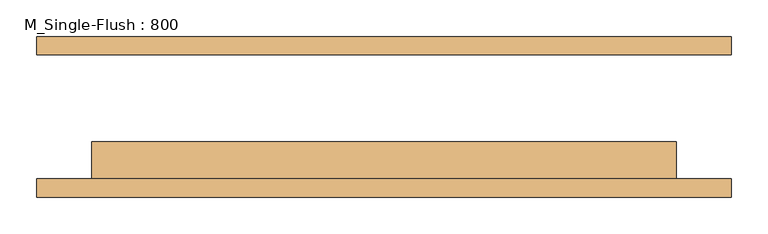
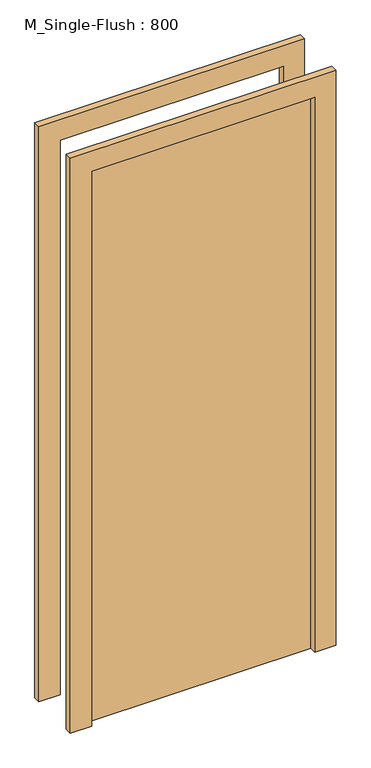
"""IFC4 building model written with IfcOpenShell, lengths in millimetres: door geometry, M_Single-Flush : 800."""

from ifc_helpers import new_model, si_unit, frame, origin, origin_with_axes, place, context, project, spatial, polyline, outline, extrude, source, transform, mapped, element, save


def m_single_flush_800_b7240e34(model_context):
    return source(origin(), model_context, "Body", "SweptSolid", [
        extrude(outline(polyline([(2176.0, -476.0), (0.0, -476.0), (0.0, -400.0), (2100.0, -400.0), (2100.0, 400.0), (0.0, 400.0), (0.0, 476.0), (2176.0, 476.0), (2176.0, -476.0)])), frame((0.0, -110.0, 0.0), z_axis=(0.0, 1.0, 0.0), x_axis=(0.0, 0.0, 1.0)), (0.0, 0.0, 1.0), 25.0),
        extrude(outline(polyline([(2176.0, 476.0), (2176.0, -476.0), (0.0, -476.0), (0.0, -400.0), (2100.0, -400.0), (2100.0, 400.0), (0.0, 400.0), (0.0, 476.0), (2176.0, 476.0)])), frame((0.0, 85.0, 0.0), z_axis=(0.0, 1.0, 0.0), x_axis=(0.0, 0.0, 1.0)), (0.0, 0.0, 1.0), 25.0),
        extrude(outline(polyline([(400.0, -34.0), (400.0, -85.0), (-400.0, -85.0), (-400.0, -34.0), (400.0, -34.0)])), origin_with_axes(), (0.0, 0.0, 1.0), 2100.0),
    ])


if __name__ == "__main__":
    model = new_model("IFC4")
    model_context = context("Model", 3, world=origin())
    ifc_project = project(units=[si_unit("LENGTHUNIT", "METRE", prefix="MILLI")], contexts=[model_context])
    site = spatial("IfcSite", under=ifc_project)
    building = spatial("IfcBuilding", under=site)
    placement = place(None, origin())
    m_single_flush_800_shape = m_single_flush_800_b7240e34(model_context)
    element("IfcDoor", 1, ObjectType="M_Single-Flush : 800", at=placement, inside=building, context=model_context, shape_type="MappedRepresentation", body=[
        mapped(m_single_flush_800_shape, transform((0.0, 0.0, 0.0), x_axis=(1.0, 0.0, 0.0), y_axis=(0.0, 1.0, 0.0), z_axis=(0.0, 0.0, 1.0))),
    ])
    save(model, "model.ifc")
